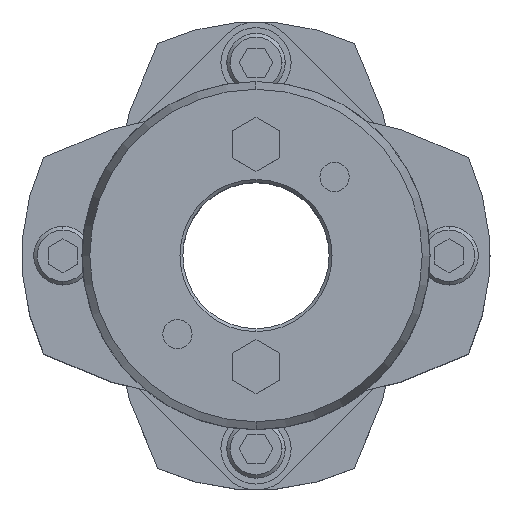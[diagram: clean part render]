
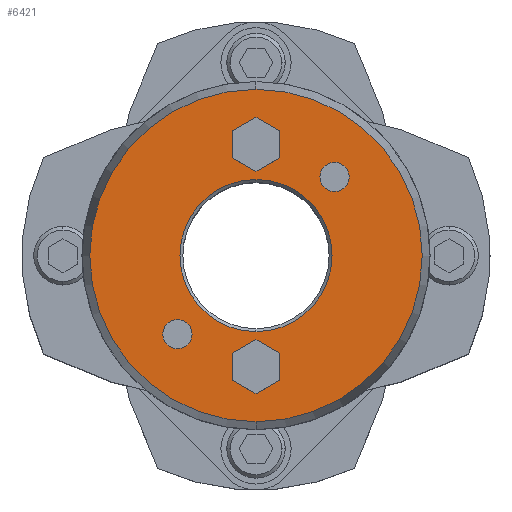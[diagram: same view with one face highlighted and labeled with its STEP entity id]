
A CAD part, top view. The second image highlights one B-rep face of the part: STEP entity #6421.
In plain terms, the highlighted planar face has unit normal (0, 0, 1).
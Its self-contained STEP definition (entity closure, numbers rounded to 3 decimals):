
#1677=CARTESIAN_POINT('',(0.,13.,45.25));
#1678=VERTEX_POINT('',#1677);
#1694=CARTESIAN_POINT('',(0.,-13.,45.25));
#1695=VERTEX_POINT('',#1694);
#1702=CARTESIAN_POINT('',(0.,0.,45.25));
#1703=DIRECTION('',(0.0,0.0,1.0));
#1704=DIRECTION('',(0.,1.0,0.0));
#1705=AXIS2_PLACEMENT_3D('',#1702,#1703,#1704);
#1706=CIRCLE('',#1705,13.0);
#1707=EDGE_CURVE('',#1695,#1678,#1706,.T.);
#1823=CARTESIAN_POINT('',(0.,-28.41,45.25));
#1824=VERTEX_POINT('',#1823);
#1833=CARTESIAN_POINT('',(0.,28.41,45.25));
#1834=VERTEX_POINT('',#1833);
#1835=CARTESIAN_POINT('',(0.,0.,45.25));
#1836=DIRECTION('',(0.0,0.0,-1.0));
#1837=DIRECTION('',(0.,-1.0,0.0));
#1838=AXIS2_PLACEMENT_3D('',#1835,#1836,#1837);
#1839=CIRCLE('',#1838,28.41);
#1840=EDGE_CURVE('',#1824,#1834,#1839,.T.);
#2009=CARTESIAN_POINT('',(13.435,15.935,45.25));
#2010=VERTEX_POINT('',#2009);
#2026=CARTESIAN_POINT('',(13.435,10.935,45.25));
#2027=VERTEX_POINT('',#2026);
#2034=CARTESIAN_POINT('',(13.435,13.435,45.25));
#2035=DIRECTION('',(0.0,0.0,-1.0));
#2036=DIRECTION('',(0.,1.0,0.0));
#2037=AXIS2_PLACEMENT_3D('',#2034,#2035,#2036);
#2038=CIRCLE('',#2037,2.5);
#2039=EDGE_CURVE('',#2010,#2027,#2038,.T.);
#2051=CARTESIAN_POINT('',(-13.435,-10.935,45.25));
#2052=VERTEX_POINT('',#2051);
#2068=CARTESIAN_POINT('',(-13.435,-15.935,45.25));
#2069=VERTEX_POINT('',#2068);
#2076=CARTESIAN_POINT('',(-13.435,-13.435,45.25));
#2077=DIRECTION('',(0.0,0.0,-1.0));
#2078=DIRECTION('',(0.,1.0,0.0));
#2079=AXIS2_PLACEMENT_3D('',#2076,#2077,#2078);
#2080=CIRCLE('',#2079,2.5);
#2081=EDGE_CURVE('',#2052,#2069,#2080,.T.);
#5547=CARTESIAN_POINT('',(0.,-14.381,45.25));
#5548=VERTEX_POINT('',#5547);
#5555=CARTESIAN_POINT('',(-4.,-16.691,45.25));
#5556=VERTEX_POINT('',#5555);
#5557=CARTESIAN_POINT('',(-4.,-16.691,45.25));
#5558=DIRECTION('',(0.866,0.5,0.0));
#5559=VECTOR('',#5558,4.619);
#5560=LINE('',#5557,#5559);
#5561=EDGE_CURVE('',#5556,#5548,#5560,.T.);
#5585=CARTESIAN_POINT('',(4.,-16.691,45.25));
#5586=VERTEX_POINT('',#5585);
#5593=CARTESIAN_POINT('',(0.,-14.381,45.25));
#5594=DIRECTION('',(0.866,-0.5,0.0));
#5595=VECTOR('',#5594,4.619);
#5596=LINE('',#5593,#5595);
#5597=EDGE_CURVE('',#5548,#5586,#5596,.T.);
#5616=CARTESIAN_POINT('',(4.,-21.309,45.25));
#5617=VERTEX_POINT('',#5616);
#5624=CARTESIAN_POINT('',(4.,-16.691,45.25));
#5625=DIRECTION('',(0.,-1.0,0.0));
#5626=VECTOR('',#5625,4.619);
#5627=LINE('',#5624,#5626);
#5628=EDGE_CURVE('',#5586,#5617,#5627,.T.);
#5647=CARTESIAN_POINT('',(0.,-23.619,45.25));
#5648=VERTEX_POINT('',#5647);
#5655=CARTESIAN_POINT('',(4.,-21.309,45.25));
#5656=DIRECTION('',(-0.866,-0.5,0.0));
#5657=VECTOR('',#5656,4.619);
#5658=LINE('',#5655,#5657);
#5659=EDGE_CURVE('',#5617,#5648,#5658,.T.);
#5678=CARTESIAN_POINT('',(-4.,-21.309,45.25));
#5679=VERTEX_POINT('',#5678);
#5686=CARTESIAN_POINT('',(0.,-23.619,45.25));
#5687=DIRECTION('',(-0.866,0.5,0.0));
#5688=VECTOR('',#5687,4.619);
#5689=LINE('',#5686,#5688);
#5690=EDGE_CURVE('',#5648,#5679,#5689,.T.);
#5708=CARTESIAN_POINT('',(-4.,-21.309,45.25));
#5709=DIRECTION('',(0.,1.0,0.0));
#5710=VECTOR('',#5709,4.619);
#5711=LINE('',#5708,#5710);
#5712=EDGE_CURVE('',#5679,#5556,#5711,.T.);
#5747=CARTESIAN_POINT('',(0.,23.619,45.25));
#5748=VERTEX_POINT('',#5747);
#5755=CARTESIAN_POINT('',(-4.,21.309,45.25));
#5756=VERTEX_POINT('',#5755);
#5757=CARTESIAN_POINT('',(-4.,21.309,45.25));
#5758=DIRECTION('',(0.866,0.5,0.0));
#5759=VECTOR('',#5758,4.619);
#5760=LINE('',#5757,#5759);
#5761=EDGE_CURVE('',#5756,#5748,#5760,.T.);
#5785=CARTESIAN_POINT('',(4.,21.309,45.25));
#5786=VERTEX_POINT('',#5785);
#5793=CARTESIAN_POINT('',(0.,23.619,45.25));
#5794=DIRECTION('',(0.866,-0.5,0.0));
#5795=VECTOR('',#5794,4.619);
#5796=LINE('',#5793,#5795);
#5797=EDGE_CURVE('',#5748,#5786,#5796,.T.);
#5816=CARTESIAN_POINT('',(4.,16.691,45.25));
#5817=VERTEX_POINT('',#5816);
#5824=CARTESIAN_POINT('',(4.,21.309,45.25));
#5825=DIRECTION('',(0.,-1.0,0.0));
#5826=VECTOR('',#5825,4.619);
#5827=LINE('',#5824,#5826);
#5828=EDGE_CURVE('',#5786,#5817,#5827,.T.);
#5847=CARTESIAN_POINT('',(0.,14.381,45.25));
#5848=VERTEX_POINT('',#5847);
#5855=CARTESIAN_POINT('',(4.,16.691,45.25));
#5856=DIRECTION('',(-0.866,-0.5,0.0));
#5857=VECTOR('',#5856,4.619);
#5858=LINE('',#5855,#5857);
#5859=EDGE_CURVE('',#5817,#5848,#5858,.T.);
#5878=CARTESIAN_POINT('',(-4.,16.691,45.25));
#5879=VERTEX_POINT('',#5878);
#5886=CARTESIAN_POINT('',(0.,14.381,45.25));
#5887=DIRECTION('',(-0.866,0.5,0.0));
#5888=VECTOR('',#5887,4.619);
#5889=LINE('',#5886,#5888);
#5890=EDGE_CURVE('',#5848,#5879,#5889,.T.);
#5908=CARTESIAN_POINT('',(-4.,16.691,45.25));
#5909=DIRECTION('',(0.,1.0,0.0));
#5910=VECTOR('',#5909,4.619);
#5911=LINE('',#5908,#5910);
#5912=EDGE_CURVE('',#5879,#5756,#5911,.T.);
#5938=CARTESIAN_POINT('',(-13.435,-13.435,45.25));
#5939=DIRECTION('',(0.0,0.0,-1.0));
#5940=DIRECTION('',(0.,1.0,0.0));
#5941=AXIS2_PLACEMENT_3D('',#5938,#5939,#5940);
#5942=CIRCLE('',#5941,2.5);
#5943=EDGE_CURVE('',#2069,#2052,#5942,.T.);
#5972=CARTESIAN_POINT('',(13.435,13.435,45.25));
#5973=DIRECTION('',(0.0,0.0,-1.0));
#5974=DIRECTION('',(0.,1.0,0.0));
#5975=AXIS2_PLACEMENT_3D('',#5972,#5973,#5974);
#5976=CIRCLE('',#5975,2.5);
#5977=EDGE_CURVE('',#2027,#2010,#5976,.T.);
#6368=CARTESIAN_POINT('',(0.,0.,45.25));
#6369=DIRECTION('',(0.0,0.0,-1.0));
#6370=DIRECTION('',(0.,-1.0,0.0));
#6371=AXIS2_PLACEMENT_3D('',#6368,#6369,#6370);
#6372=CIRCLE('',#6371,28.41);
#6373=EDGE_CURVE('',#1834,#1824,#6372,.T.);
#6378=CARTESIAN_POINT('',(0.,2.364,45.25));
#6379=DIRECTION('',(0.0,0.0,1.0));
#6380=DIRECTION('',(0.,1.0,0.0));
#6381=AXIS2_PLACEMENT_3D('',#6378,#6379,#6380);
#6382=PLANE('',#6381);
#6383=ORIENTED_EDGE('',*,*,#6373,.F.);
#6384=ORIENTED_EDGE('',*,*,#1840,.F.);
#6385=EDGE_LOOP('',(#6383,#6384));
#6386=FACE_OUTER_BOUND('',#6385,.T.);
#6387=ORIENTED_EDGE('',*,*,#5561,.T.);
#6388=ORIENTED_EDGE('',*,*,#5597,.T.);
#6389=ORIENTED_EDGE('',*,*,#5628,.T.);
#6390=ORIENTED_EDGE('',*,*,#5659,.T.);
#6391=ORIENTED_EDGE('',*,*,#5690,.T.);
#6392=ORIENTED_EDGE('',*,*,#5712,.T.);
#6393=EDGE_LOOP('',(#6387,#6388,#6389,#6390,#6391,#6392));
#6394=FACE_BOUND('',#6393,.T.);
#6395=ORIENTED_EDGE('',*,*,#5761,.T.);
#6396=ORIENTED_EDGE('',*,*,#5797,.T.);
#6397=ORIENTED_EDGE('',*,*,#5828,.T.);
#6398=ORIENTED_EDGE('',*,*,#5859,.T.);
#6399=ORIENTED_EDGE('',*,*,#5890,.T.);
#6400=ORIENTED_EDGE('',*,*,#5912,.T.);
#6401=EDGE_LOOP('',(#6395,#6396,#6397,#6398,#6399,#6400));
#6402=FACE_BOUND('',#6401,.T.);
#6403=ORIENTED_EDGE('',*,*,#2081,.T.);
#6404=ORIENTED_EDGE('',*,*,#5943,.T.);
#6405=EDGE_LOOP('',(#6403,#6404));
#6406=FACE_BOUND('',#6405,.T.);
#6407=ORIENTED_EDGE('',*,*,#2039,.T.);
#6408=ORIENTED_EDGE('',*,*,#5977,.T.);
#6409=EDGE_LOOP('',(#6407,#6408));
#6410=FACE_BOUND('',#6409,.T.);
#6411=ORIENTED_EDGE('',*,*,#1707,.F.);
#6412=CARTESIAN_POINT('',(0.,0.,45.25));
#6413=DIRECTION('',(0.0,0.0,1.0));
#6414=DIRECTION('',(0.,1.0,0.0));
#6415=AXIS2_PLACEMENT_3D('',#6412,#6413,#6414);
#6416=CIRCLE('',#6415,13.0);
#6417=EDGE_CURVE('',#1678,#1695,#6416,.T.);
#6418=ORIENTED_EDGE('',*,*,#6417,.F.);
#6419=EDGE_LOOP('',(#6411,#6418));
#6420=FACE_BOUND('',#6419,.T.);
#6421=ADVANCED_FACE('',(#6386,#6394,#6402,#6406,#6410,#6420),#6382,.T.);
